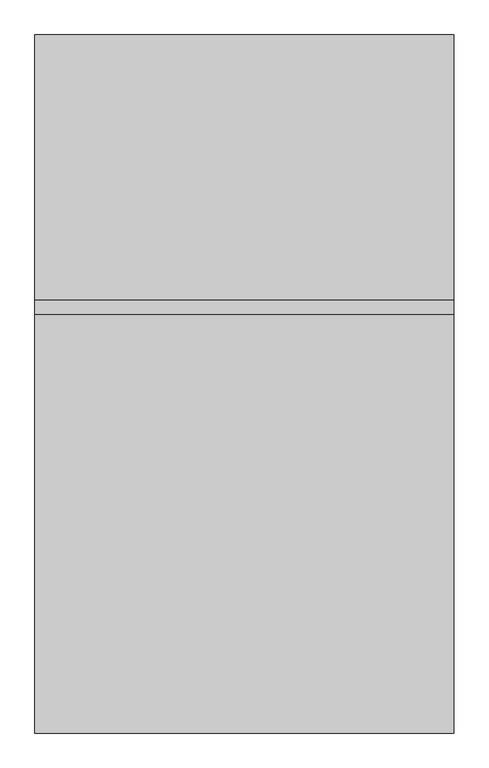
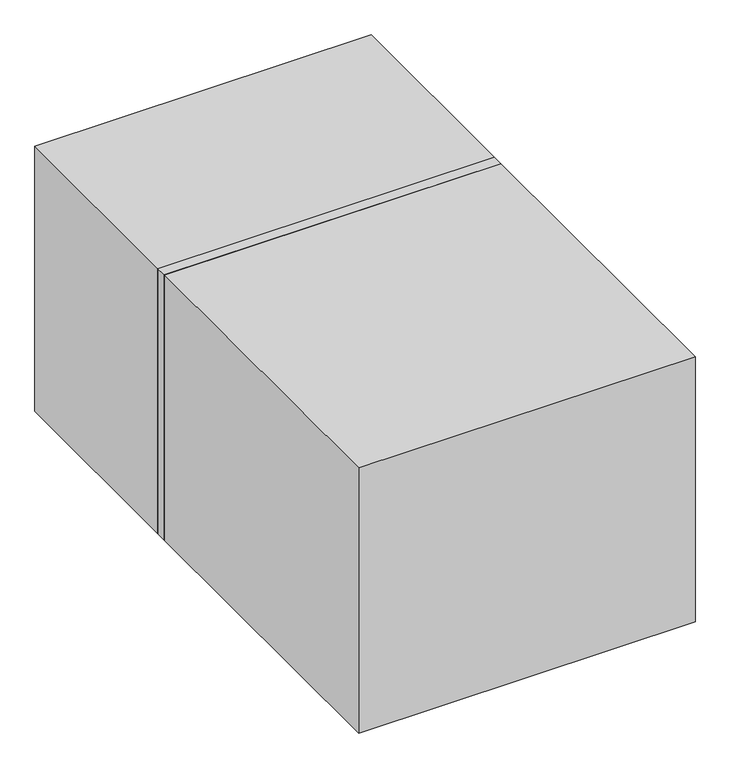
"""IFC4 building model written with IfcOpenShell, lengths in millimetres: electric distribution board geometry, НВО_НавесныеШкафыТелекоммуникационныеМеталлическаяДверца_DKC : IP31 RAL7035 400х600х500 мм (ГхШхВ)."""

from ifc_helpers import new_model, si_unit, point, frame, frame_2d, origin, place, context, project, spatial, polyline, circle_curve, trimmed, segment, composite_curve, outline, extrude, faceted_brep, source, transform, mapped, element, save
from ifc_brep_helpers import plane_surface, cylinder_surface, revolved_surface, advanced_brep


def electric_distribution_board_d1497887(model_context):
    return source(origin(), model_context, "Body", "SolidModel", [
        extrude(outline(composite_curve([segment(polyline([(1195.2522548, -270.4361714), (1195.2522548, -262.7599567)]), True, "CONTINUOUS"), segment(trimmed(circle_curve(frame_2d((1204.6374537, -262.7599567)), 9.3851989), [point((1195.2522548, -262.7599567))], [point((1195.9237849, -259.2737072))], False, "CARTESIAN"), True, "CONTINUOUS"), segment(trimmed(circle_curve(frame_2d((1200.4697033, -261.0924825)), 4.8962555), [point((1195.9237849, -259.2737072))], [point((1200.0, -256.2188087))], False, "CARTESIAN"), True, "CONTINUOUS"), segment(trimmed(circle_curve(frame_2d((1199.5302967, -261.0924825)), 4.8962555), [point((1200.0, -256.2188087))], [point((1204.0762151, -259.2737072))], False, "CARTESIAN"), True, "CONTINUOUS"), segment(trimmed(circle_curve(frame_2d((1195.3625463, -262.7599567)), 9.3851989), [point((1204.0762151, -259.2737072))], [point((1204.7477452, -262.7599567))], False, "CARTESIAN"), True, "CONTINUOUS"), segment(polyline([(1204.7477452, -262.7599567), (1204.7477452, -270.4361714), (1195.2522548, -270.4361714)]), True, "CONTINUOUS")], self_intersect=False), holes=[composite_curve([segment(polyline([(1203.4305842, -266.8662202), (1203.4305842, -264.3065187)]), True, "CONTINUOUS"), segment(trimmed(circle_curve(frame_2d((1195.7124901, -264.3065187)), 7.7180942), [point((1203.4305842, -264.3065187))], [point((1202.8023319, -261.256417))], True, "CARTESIAN"), True, "CONTINUOUS"), segment(trimmed(circle_curve(frame_2d((1201.0797503, -261.9974842)), 1.8752248), [point((1202.8023319, -261.256417))], [point((1201.4095765, -260.1514932))], True, "CARTESIAN"), True, "CONTINUOUS"), segment(trimmed(circle_curve(frame_2d((1199.6204625, -270.1649135)), 10.1719966), [point((1201.4095765, -260.1514932))], [point((1200.0, -260.0))], True, "CARTESIAN"), True, "CONTINUOUS"), segment(trimmed(circle_curve(frame_2d((1200.3795375, -270.1649135)), 10.1719966), [point((1200.0, -260.0))], [point((1198.5904235, -260.1514932))], True, "CARTESIAN"), True, "CONTINUOUS"), segment(trimmed(circle_curve(frame_2d((1198.9202497, -261.9974842)), 1.8752248), [point((1198.5904235, -260.1514932))], [point((1197.1976681, -261.256417))], True, "CARTESIAN"), True, "CONTINUOUS"), segment(trimmed(circle_curve(frame_2d((1204.2875099, -264.3065187)), 7.7180942), [point((1197.1976681, -261.256417))], [point((1196.5694158, -264.3065187))], True, "CARTESIAN"), True, "CONTINUOUS"), segment(polyline([(1196.5694158, -264.3065187), (1196.5694158, -266.8662202), (1203.4305842, -266.8662202)]), True, "CONTINUOUS")], self_intersect=False)]), frame((0.0, -402.0, 0.0), z_axis=(0.0, 1.0, 0.0), x_axis=(0.0, 0.0, 1.0)), (0.0, 0.0, 1.0), 2.0),
        extrude(outline(polyline([(1204.7477452, -254.3848727), (1195.2522548, -254.3848727), (1195.2522548, -250.9908575), (1199.2401383, -250.9908575), (1195.2522548, -246.444158), (1195.2522548, -242.3120204), (1200.5384249, -248.1731846), (1204.7477452, -242.4434669), (1204.7477452, -245.0016173), (1200.2876655, -251.0245618), (1204.7477452, -251.0245618), (1204.7477452, -254.3848727)])), frame((0.0, -402.0, 0.0), z_axis=(0.0, 1.0, 0.0), x_axis=(0.0, 0.0, 1.0)), (0.0, 0.0, 1.0), 2.0),
        extrude(outline(composite_curve([segment(trimmed(circle_curve(frame_2d((1190.0078894, -234.3366932)), 14.8634972), [point((1204.0743349, -229.5347498))], [point((1204.6196872, -237.0604615))], False, "CARTESIAN"), True, "CONTINUOUS"), segment(trimmed(circle_curve(frame_2d((1192.9596787, -234.8869328)), 11.860861), [point((1204.6196872, -237.0604615))], [point((1203.3117677, -240.6760845))], False, "CARTESIAN"), True, "CONTINUOUS"), segment(trimmed(circle_curve(frame_2d((1198.8392604, -238.1749446)), 5.1243559), [point((1203.3117677, -240.6760845))], [point((1201.6421758, -242.46478))], False, "CARTESIAN"), True, "CONTINUOUS"), segment(trimmed(circle_curve(frame_2d((1200.1147571, -240.1270803)), 2.7924627), [point((1201.6421758, -242.46478))], [point((1200.0, -242.917184))], False, "CARTESIAN"), True, "CONTINUOUS"), segment(trimmed(circle_curve(frame_2d((1200.1764499, -238.6271352)), 4.2936759), [point((1200.0, -242.917184))], [point((1196.4762827, -240.8053031))], False, "CARTESIAN"), True, "CONTINUOUS"), segment(trimmed(circle_curve(frame_2d((1206.6930797, -234.7910077)), 11.8555763), [point((1196.4762827, -240.8053031))], [point((1195.7901742, -230.134685))], False, "CARTESIAN"), True, "CONTINUOUS"), segment(polyline([(1195.7901742, -230.134685), (1197.2760981, -229.6190256)]), True, "CONTINUOUS"), segment(trimmed(circle_curve(frame_2d((1203.3401731, -233.6307387)), 7.2709591), [point((1197.2760981, -229.6190256))], [point((1197.5933204, -238.0850098))], True, "CARTESIAN"), True, "CONTINUOUS"), segment(trimmed(circle_curve(frame_2d((1199.8135247, -236.3641737)), 2.8090184), [point((1197.5933204, -238.0850098))], [point((1200.8831991, -238.9615532))], True, "CARTESIAN"), True, "CONTINUOUS"), segment(trimmed(circle_curve(frame_2d((1199.3581346, -235.2583969)), 4.0048956), [point((1200.8831991, -238.9615532))], [point((1202.8847256, -237.1563813))], True, "CARTESIAN"), True, "CONTINUOUS"), segment(trimmed(circle_curve(frame_2d((1197.4021495, -234.2057006)), 6.2261671), [point((1202.8847256, -237.1563813))], [point((1202.1645049, -230.1950738))], True, "CARTESIAN"), True, "CONTINUOUS"), segment(polyline([(1202.1645049, -230.1950738), (1204.0743349, -229.5347498)]), True, "CONTINUOUS")], self_intersect=False)), frame((0.0, -402.0, 0.0), z_axis=(0.0, 1.0, 0.0), x_axis=(0.0, 0.0, 1.0)), (0.0, 0.0, 1.0), 2.0),
        extrude(outline(composite_curve([segment(trimmed(circle_curve(frame_2d((1203.9810141, -276.8556522)), 0.7712407), [point((1203.9810141, -276.0844115))], [point((1204.7522548, -276.8556522))], False, "CARTESIAN"), True, "CONTINUOUS"), segment(polyline([(1204.7522548, -276.8556522), (1204.7522548, -288.8921838)]), True, "CONTINUOUS"), segment(trimmed(circle_curve(frame_2d((1203.7482214, -288.8921838)), 1.0040334), [point((1204.7522548, -288.8921838))], [point((1203.7482214, -289.8962172))], False, "CARTESIAN"), True, "CONTINUOUS"), segment(polyline([(1203.7482214, -289.8962172), (1196.2525173, -289.8962172)]), True, "CONTINUOUS"), segment(trimmed(circle_curve(frame_2d((1196.2525173, -288.8959546)), 1.0002626), [point((1196.2525173, -289.8962172))], [point((1195.2522548, -288.8959546))], False, "CARTESIAN"), True, "CONTINUOUS"), segment(polyline([(1195.2522548, -288.8959546), (1195.2522548, -276.7257862)]), True, "CONTINUOUS"), segment(trimmed(circle_curve(frame_2d((1200.1985482, -276.7257862)), 4.9462935), [point((1195.2522548, -276.7257862))], [point((1197.2967122, -272.7201443))], False, "CARTESIAN"), True, "CONTINUOUS"), segment(polyline([(1197.2967122, -272.7201443), (1198.5784181, -272.7201443)]), True, "CONTINUOUS"), segment(trimmed(circle_curve(frame_2d((1203.048804, -277.7500222)), 6.7293403), [point((1198.5784181, -272.7201443))], [point((1198.5784181, -282.7799001))], True, "CARTESIAN"), True, "CONTINUOUS"), segment(polyline([(1198.5784181, -282.7799001), (1197.524661, -282.7799001)]), True, "CONTINUOUS"), segment(trimmed(circle_curve(frame_2d((1197.9883644, -280.8520843)), 1.9827998), [point((1197.524661, -282.7799001))], [point((1196.0055647, -280.8520843))], False, "CARTESIAN"), True, "CONTINUOUS"), segment(polyline([(1196.0055647, -280.8520843), (1196.0055647, -286.7056091), (1203.9989449, -286.7056091), (1203.9989449, -277.2764216), (1203.1225561, -277.2764216), (1203.1225561, -276.0844115), (1203.9810141, -276.0844115)]), True, "CONTINUOUS")], self_intersect=False)), frame((0.0, -402.0, 0.0), z_axis=(0.0, 1.0, 0.0), x_axis=(0.0, 0.0, 1.0)), (0.0, 0.0, 1.0), 2.0),
        extrude(outline(composite_curve([segment(polyline([(1199.1735802, -272.7201443), (1199.9609475, -272.7201443)]), True, "CONTINUOUS"), segment(trimmed(circle_curve(frame_2d((1205.0528216, -277.7500222)), 7.1572937), [point((1199.9609475, -272.7201443))], [point((1199.9609475, -282.7799001))], True, "CARTESIAN"), True, "CONTINUOUS"), segment(polyline([(1199.9609475, -282.7799001), (1199.1735802, -282.7799001)]), True, "CONTINUOUS"), segment(trimmed(circle_curve(frame_2d((1203.6469573, -277.7500222)), 6.7313279), [point((1199.1735802, -282.7799001))], [point((1199.1735802, -272.7201443))], False, "CARTESIAN"), True, "CONTINUOUS")], self_intersect=False)), frame((0.0, -402.0, 0.0), z_axis=(0.0, 1.0, 0.0), x_axis=(0.0, 0.0, 1.0)), (0.0, 0.0, 1.0), 2.0),
        extrude(outline(composite_curve([segment(trimmed(circle_curve(frame_2d((1195.6681942, -277.6745713)), 5.9267817), [point((1199.8365314, -273.4612939))], [point((1199.892123, -281.8321146))], False, "CARTESIAN"), True, "CONTINUOUS"), segment(polyline([(1199.892123, -281.8321146), (1199.3386839, -281.2786755)]), True, "CONTINUOUS"), segment(trimmed(circle_curve(frame_2d((1194.0800223, -277.6967539)), 6.3626791), [point((1199.3386839, -281.2786755))], [point((1199.3386839, -274.1148323))], True, "CARTESIAN"), True, "CONTINUOUS"), segment(polyline([(1199.3386839, -274.1148323), (1199.8365314, -273.4612939)]), True, "CONTINUOUS")], self_intersect=False)), frame((0.0, -402.0, 0.0), z_axis=(0.0, 1.0, 0.0), x_axis=(0.0, 0.0, 1.0)), (0.0, 0.0, 1.0), 2.0),
        extrude(outline(composite_curve([segment(trimmed(circle_curve(frame_2d((1193.5765057, -277.7053491)), 6.5304546), [point((1199.2646248, -274.4972128))], [point((1199.2646248, -280.9134855))], False, "CARTESIAN"), True, "CONTINUOUS"), segment(polyline([(1199.2646248, -280.9134855), (1198.9146088, -280.0681193)]), True, "CONTINUOUS"), segment(trimmed(circle_curve(frame_2d((1192.4429647, -277.6966214)), 6.8924726), [point((1198.9146088, -280.0681193))], [point((1198.9146088, -275.3251236))], True, "CARTESIAN"), True, "CONTINUOUS"), segment(polyline([(1198.9146088, -275.3251236), (1199.2646248, -274.4972128)]), True, "CONTINUOUS")], self_intersect=False)), frame((0.0, -402.0, 0.0), z_axis=(0.0, 1.0, 0.0), x_axis=(0.0, 0.0, 1.0)), (0.0, 0.0, 1.0), 2.0),
        extrude(outline(composite_curve([segment(polyline([(1199.9744254, -273.3219133), (1200.6884044, -272.6079342)]), True, "CONTINUOUS"), segment(trimmed(circle_curve(frame_2d((1195.6681942, -277.6745713)), 7.1325536), [point((1200.6884044, -272.6079342))], [point((1200.7458455, -282.683641))], False, "CARTESIAN"), True, "CONTINUOUS"), segment(polyline([(1200.7458455, -282.683641), (1200.031856, -281.9696515)]), True, "CONTINUOUS"), segment(trimmed(circle_curve(frame_2d((1195.6681942, -277.6745713)), 6.1228472), [point((1200.031856, -281.9696515))], [point((1199.9744254, -273.3219133))], True, "CARTESIAN"), True, "CONTINUOUS")], self_intersect=False)), frame((0.0, -402.0, 0.0), z_axis=(0.0, 1.0, 0.0), x_axis=(0.0, 0.0, 1.0)), (0.0, 0.0, 1.0), 2.0),
        extrude(outline(polyline([(1500.0, 300.0), (1500.0, -300.0), (1000.0, -300.0), (1000.0, 300.0), (1500.0, 300.0)]), holes=[polyline([(1140.0, -267.5), (1180.0, -267.5), (1180.0, -262.5), (1145.0, -262.5), (1145.0, -227.5), (1140.0, -227.5), (1140.0, -267.5)]), polyline([(1190.0, -252.5), (1150.0, -252.5), (1150.0, -257.5), (1185.0, -257.5), (1185.0, -292.5), (1190.0, -292.5), (1190.0, -252.5)]), polyline([(1180.0, 262.5), (1180.0, 267.5), (1140.0, 267.5), (1140.0, 227.5), (1145.0, 227.5), (1145.0, 262.5), (1180.0, 262.5)]), polyline([(1150.0, 257.5), (1150.0, 252.5), (1190.0, 252.5), (1190.0, 292.5), (1185.0, 292.5), (1185.0, 257.5), (1150.0, 257.5)]), polyline([(1080.0, -267.5), (1120.0, -267.5), (1120.0, -262.5), (1085.0, -262.5), (1085.0, -227.5), (1080.0, -227.5), (1080.0, -267.5)]), polyline([(1130.0, -252.5), (1090.0, -252.5), (1090.0, -257.5), (1125.0, -257.5), (1125.0, -292.5), (1130.0, -292.5), (1130.0, -252.5)]), polyline([(1120.0, 262.5), (1120.0, 267.5), (1080.0, 267.5), (1080.0, 227.5), (1085.0, 227.5), (1085.0, 262.5), (1120.0, 262.5)]), polyline([(1090.0, 257.5), (1090.0, 252.5), (1130.0, 252.5), (1130.0, 292.5), (1125.0, 292.5), (1125.0, 257.5), (1090.0, 257.5)]), polyline([(1200.0, -267.5), (1240.0, -267.5), (1240.0, -262.5), (1205.0, -262.5), (1205.0, -227.5), (1200.0, -227.5), (1200.0, -267.5)]), polyline([(1250.0, -252.5), (1210.0, -252.5), (1210.0, -257.5), (1245.0, -257.5), (1245.0, -292.5), (1250.0, -292.5), (1250.0, -252.5)]), polyline([(1240.0, 262.5), (1240.0, 267.5), (1200.0, 267.5), (1200.0, 227.5), (1205.0, 227.5), (1205.0, 262.5), (1240.0, 262.5)]), polyline([(1210.0, 257.5), (1210.0, 252.5), (1250.0, 252.5), (1250.0, 292.5), (1245.0, 292.5), (1245.0, 257.5), (1210.0, 257.5)]), polyline([(1260.0, -267.5), (1300.0, -267.5), (1300.0, -262.5), (1265.0, -262.5), (1265.0, -227.5), (1260.0, -227.5), (1260.0, -267.5)]), polyline([(1310.0, -252.5), (1270.0, -252.5), (1270.0, -257.5), (1305.0, -257.5), (1305.0, -292.5), (1310.0, -292.5), (1310.0, -252.5)]), polyline([(1300.0, 262.5), (1300.0, 267.5), (1260.0, 267.5), (1260.0, 227.5), (1265.0, 227.5), (1265.0, 262.5), (1300.0, 262.5)]), polyline([(1270.0, 257.5), (1270.0, 252.5), (1310.0, 252.5), (1310.0, 292.5), (1305.0, 292.5), (1305.0, 257.5), (1270.0, 257.5)]), polyline([(1320.0, -267.5), (1360.0, -267.5), (1360.0, -262.5), (1325.0, -262.5), (1325.0, -227.5), (1320.0, -227.5), (1320.0, -267.5)]), polyline([(1370.0, -252.5), (1330.0, -252.5), (1330.0, -257.5), (1365.0, -257.5), (1365.0, -292.5), (1370.0, -292.5), (1370.0, -252.5)]), polyline([(1360.0, 262.5), (1360.0, 267.5), (1320.0, 267.5), (1320.0, 227.5), (1325.0, 227.5), (1325.0, 262.5), (1360.0, 262.5)]), polyline([(1330.0, 257.5), (1330.0, 252.5), (1370.0, 252.5), (1370.0, 292.5), (1365.0, 292.5), (1365.0, 257.5), (1330.0, 257.5)]), polyline([(1380.0, -267.5), (1420.0, -267.5), (1420.0, -262.5), (1385.0, -262.5), (1385.0, -227.5), (1380.0, -227.5), (1380.0, -267.5)]), polyline([(1430.0, -252.5), (1390.0, -252.5), (1390.0, -257.5), (1425.0, -257.5), (1425.0, -292.5), (1430.0, -292.5), (1430.0, -252.5)]), polyline([(1420.0, 262.5), (1420.0, 267.5), (1380.0, 267.5), (1380.0, 227.5), (1385.0, 227.5), (1385.0, 262.5), (1420.0, 262.5)]), polyline([(1390.0, 257.5), (1390.0, 252.5), (1430.0, 252.5), (1430.0, 292.5), (1425.0, 292.5), (1425.0, 257.5), (1390.0, 257.5)])]), frame((0.0, -400.0, 0.0), z_axis=(0.0, 1.0, 0.0), x_axis=(0.0, 0.0, 1.0)), (0.0, 0.0, 1.0), 20.0),
        advanced_brep(
        [(-280.0, -410.0, 1237.0), (-280.0, -410.0, 1263.0), (-280.0, -403.0, 1270.0), (-280.0, -400.0, 1270.0), (-280.0, -400.0, 1230.0), (-280.0, -403.0, 1230.0), (-240.0, -410.0, 1237.0), (-240.0, -403.0, 1230.0), (-240.0, -400.0, 1230.0), (-240.0, -400.0, 1270.0), (-240.0, -403.0, 1270.0), (-240.0, -410.0, 1263.0), (-270.0, -410.0, 1250.0), (-250.0, -410.0, 1250.0), (-250.0, -408.0, 1250.0), (-270.0, -408.0, 1250.0)],
        [
            (0, 1),
            (1, 2, circle_curve(frame((-280.0, -403.0, 1263.0), z_axis=(-1.0, 0.0, 0.0), x_axis=(0.0, 0.0, -1.0)), 7.0)),
            (2, 3),
            (3, 4),
            (4, 5),
            (5, 0, circle_curve(frame((-280.0, -403.0, 1237.0), z_axis=(-1.0, 0.0, 0.0), x_axis=(0.0, 0.0, -1.0)), 7.0)),
            (6, 7, circle_curve(frame((-240.0, -403.0, 1237.0), z_axis=(1.0, 0.0, 0.0), x_axis=(0.0, 0.0, -1.0)), 7.0)),
            (7, 8),
            (8, 9),
            (9, 10),
            (10, 11, circle_curve(frame((-240.0, -403.0, 1263.0), z_axis=(1.0, 0.0, 0.0), x_axis=(0.0, 0.0, -1.0)), 7.0)),
            (11, 6),
            (0, 6),
            (11, 1),
            (12, 13, circle_curve(frame((-260.0, -410.0, 1250.0), z_axis=(0.0, 1.0, 0.0), x_axis=(-1.0, 0.0, 0.0)), 10.0)),
            (13, 12, circle_curve(frame((-260.0, -410.0, 1250.0), z_axis=(0.0, 1.0, 0.0), x_axis=(-1.0, 0.0, 0.0)), 10.0)),
            (10, 2),
            (9, 3),
            (8, 4),
            (7, 5),
            (14, 15, circle_curve(frame((-260.0, -408.0, 1250.0), z_axis=(0.0, -1.0, 0.0), x_axis=(-1.0, 0.0, 0.0)), 10.0)),
            (15, 14, circle_curve(frame((-260.0, -408.0, 1250.0), z_axis=(0.0, -1.0, 0.0), x_axis=(-1.0, 0.0, 0.0)), 10.0)),
            (14, 13),
            (12, 15),
        ],
        [
            plane_surface(frame((-280.0, -410.0, 1262.2232354), z_axis=(-1.0, 0.0, 0.0), x_axis=(0.0, 0.0, 1.0))),
            plane_surface(frame((-240.0, -410.0, 1262.2232354), z_axis=(1.0, 0.0, 0.0), x_axis=(0.0, 0.0, -1.0))),
            plane_surface(frame((-280.0, -410.0, 1237.0), z_axis=(0.0, -1.0, 0.0), x_axis=(1.0, 0.0, 0.0))),
            cylinder_surface(frame((-240.0, -403.0, 1263.0), z_axis=(-1.0, 0.0, 0.0), x_axis=(0.0, 0.0, -1.0)), 7.0),
            plane_surface(frame((-280.0, -403.0, 1270.0), z_axis=(0.0, 0.0, 1.0), x_axis=(1.0, 0.0, 0.0))),
            plane_surface(frame((-280.0, -400.0, 1270.0), z_axis=(0.0, 1.0, 0.0), x_axis=(1.0, 0.0, 0.0))),
            plane_surface(frame((-280.0, -400.0, 1230.0), z_axis=(0.0, 0.0, -1.0), x_axis=(1.0, 0.0, 0.0))),
            cylinder_surface(frame((-240.0, -403.0, 1237.0), z_axis=(-1.0, 0.0, 0.0), x_axis=(0.0, 0.0, -1.0)), 7.0),
            plane_surface(frame((-270.0, -408.0, 1250.0), z_axis=(0.0, -1.0, 0.0), x_axis=(0.0, 0.0, 1.0))),
            revolved_surface(polyline([(-270.0, -410.0, 1250.0), (-270.0, -408.0, 1250.0)]), (-260.0, -408.0, 1250.0), (0.0, -1.0, 0.0)),
        ],
        [
            (0, [[1, 2, 3, 4, 5, 6]]),
            (1, [[7, 8, 9, 10, 11, 12]]),
            (2, [[-1, 13, -12, 14], [15, 16]]),
            (3, [[-2, -14, -11, 17]]),
            (4, [[-3, -17, -10, 18]]),
            (5, [[-4, -18, -9, 19]]),
            (6, [[-5, -19, -8, 20]]),
            (7, [[-6, -20, -7, -13]]),
            (8, [[21, 22]]),
            (9, [[-21, 23, -15, 24]]),
            (9, [[-22, -24, -16, -23]]),
        ],
    ),
        faceted_brep([(-300.0, 0.0, 1500.0), (300.0, 0.0, 1500.0), (300.0, 0.0, 1000.0), (-300.0, 0.0, 1000.0), (280.0, -20.0, 1020.0), (280.0, -20.0, 1480.0), (-280.0, -20.0, 1480.0), (-280.0, -20.0, 1020.0), (300.0, -380.0, 1500.0), (-300.0, -380.0, 1500.0), (-300.0, -380.0, 1000.0), (300.0, -380.0, 1000.0), (280.0, -380.0, 1480.0), (280.0, -380.0, 1020.0), (-280.0, -380.0, 1020.0), (-280.0, -380.0, 1480.0)], [[[0, 1, 2, 3]], [[4, 5, 6, 7]], [[8, 9, 10, 11], [12, 13, 14, 15]], [[9, 8, 1, 0]], [[10, 9, 0, 3]], [[11, 10, 3, 2]], [[1, 8, 11, 2]], [[13, 12, 5, 4]], [[14, 13, 4, 7]], [[15, 14, 7, 6]], [[12, 15, 6, 5]]]),
        extrude(outline(polyline([(300.0, -1000.0), (-300.0, -1000.0), (-300.0, -400.0), (300.0, -400.0), (300.0, -1000.0)])), frame((0.0, 0.0, 1000.0), z_axis=(0.0, 0.0, 1.0), x_axis=(1.0, 0.0, 0.0)), (0.0, 0.0, 1.0), 500.0),
    ])


if __name__ == "__main__":
    model = new_model("IFC4")
    model_context = context("Model", 3, world=origin())
    ifc_project = project(units=[si_unit("LENGTHUNIT", "METRE", prefix="MILLI")], contexts=[model_context])
    site = spatial("IfcSite", under=ifc_project)
    building = spatial("IfcBuilding", under=site)
    placement = place(None, origin())
    electric_distribution_board_shape = electric_distribution_board_d1497887(model_context)
    element("IfcElectricDistributionBoard", 1, ObjectType="НВО_НавесныеШкафыТелекоммуникационныеМеталлическаяДверца_DKC : IP31 RAL7035 400х600х500 мм (ГхШхВ)", at=placement, inside=building, context=model_context, shape_type="MappedRepresentation", body=[
        mapped(electric_distribution_board_shape, transform((0.0, 0.0, 0.0), x_axis=(1.0, 0.0, 0.0), y_axis=(0.0, 1.0, 0.0), z_axis=(0.0, 0.0, 1.0))),
    ])
    save(model, "model.ifc")
